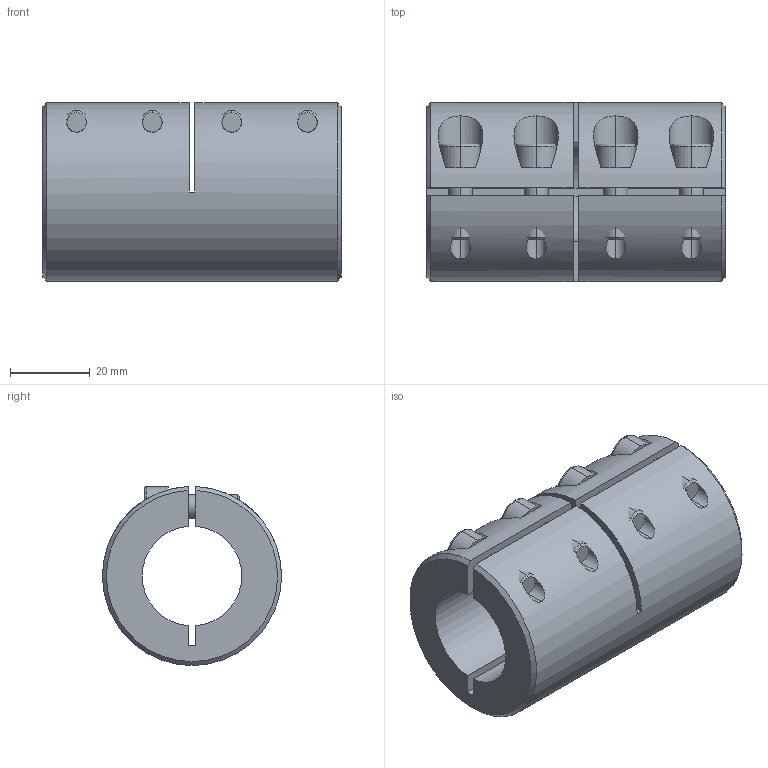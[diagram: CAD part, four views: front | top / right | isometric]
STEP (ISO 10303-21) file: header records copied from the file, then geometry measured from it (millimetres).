
FILE_DESCRIPTION (( 'STEP AP203' ), '1' );
FILE_NAME ('GRS-25-25.STEP', '2025-11-27T10:12:04', ( '' ), ( '' ), 'SwSTEP 2.0', 'SolidWorks 2021', '' );
FILE_SCHEMA (( 'CONFIG_CONTROL_DESIGN' ));
Length unit declared in the file: millimetre
Products named in the file (1): GRS-25-25
Bounding box: 75 x 45 x 45 mm (x, y, z)
Volume: 78201.5 mm3; surface area: 25668.5 mm2
Topology: 5 solids, 5 shells, 157 faces, 361 edges, 218 vertices
Faces by surface type: plane 79, cylinder 43, cone 19, torus 16
Entity records: 5574 total; most frequent: CARTESIAN_POINT 1885, DIRECTION 795, ORIENTED_EDGE 706, EDGE_CURVE 353, AXIS2_PLACEMENT_3D 304, VERTEX_POINT 218, LINE 187, VECTOR 187
